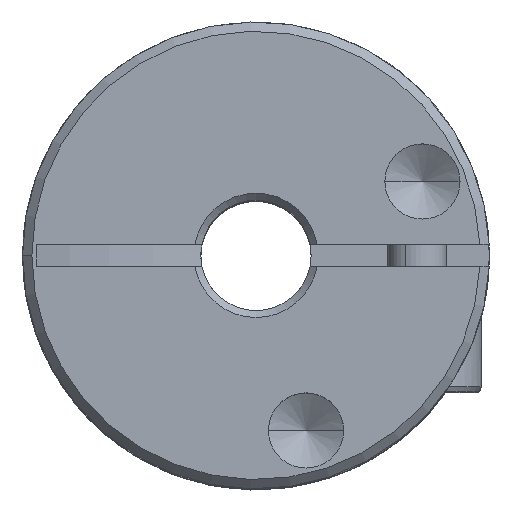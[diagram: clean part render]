
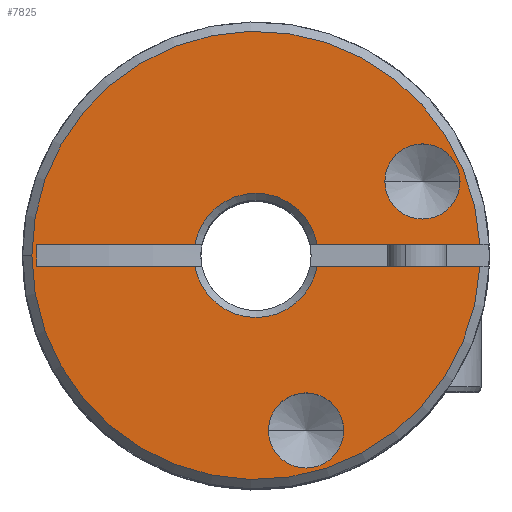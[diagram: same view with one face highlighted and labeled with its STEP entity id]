
A CAD part, top view. The second image highlights one B-rep face of the part: STEP entity #7825.
In plain terms, the highlighted planar face has unit normal (0, 0, 1).
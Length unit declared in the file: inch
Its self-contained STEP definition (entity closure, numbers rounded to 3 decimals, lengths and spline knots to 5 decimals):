
#3417=CARTESIAN_POINT('',(0.47943,0.0234,0.45));
#3427=CARTESIAN_POINT('',(0.,0.,0.45));
#3428=DIRECTION('',(0.,0.,1.));
#3429=DIRECTION('',(-1.,0.,0.));
#3430=AXIS2_PLACEMENT_3D('',#3427,#3428,#3429);
#3435=CARTESIAN_POINT('',(0.,0.,0.45));
#3436=DIRECTION('',(0.,0.,1.));
#3437=DIRECTION('',(0.999,0.049,0.));
#3438=AXIS2_PLACEMENT_3D('',#3435,#3436,#3437);
#3443=DIRECTION('',(1.,0.,0.));
#3444=VECTOR('',#3443,0.3484);
#3445=CARTESIAN_POINT('',(0.13103,0.0234,0.45));
#3446=LINE('',#3445,#3444);
#3450=DIRECTION('',(1.,0.,0.));
#3451=VECTOR('',#3450,0.3484);
#3452=CARTESIAN_POINT('',(0.13103,-0.0234,0.45));
#3453=LINE('',#3452,#3451);
#3457=CARTESIAN_POINT('',(0.10717,-0.37499,0.45));
#3458=DIRECTION('',(0.,0.,-1.));
#3459=DIRECTION('',(1.,0.,0.));
#3460=AXIS2_PLACEMENT_3D('',#3457,#3458,#3459);
#3465=CARTESIAN_POINT('',(0.10717,-0.37499,0.45));
#3466=DIRECTION('',(0.,0.,-1.));
#3467=DIRECTION('',(-1.,0.,0.));
#3468=AXIS2_PLACEMENT_3D('',#3465,#3466,#3467);
#3473=CARTESIAN_POINT('',(0.35642,0.15832,0.45));
#3474=DIRECTION('',(0.,0.,-1.));
#3475=DIRECTION('',(1.,0.,0.));
#3476=AXIS2_PLACEMENT_3D('',#3473,#3474,#3475);
#3481=CARTESIAN_POINT('',(0.35642,0.15832,0.45));
#3482=DIRECTION('',(0.,0.,-1.));
#3483=DIRECTION('',(-1.,0.,0.));
#3484=AXIS2_PLACEMENT_3D('',#3481,#3482,#3483);
#3503=CARTESIAN_POINT('',(0.,0.,0.45));
#3504=DIRECTION('',(0.,0.,-1.));
#3505=DIRECTION('',(-0.984,0.176,0.));
#3506=AXIS2_PLACEMENT_3D('',#3503,#3504,#3505);
#3546=DIRECTION('',(1.,0.,0.));
#3547=VECTOR('',#3546,0.33897);
#3548=CARTESIAN_POINT('',(-0.47,0.0234,0.45));
#3549=LINE('',#3548,#3547);
#3553=DIRECTION('',(0.,-1.,0.));
#3554=VECTOR('',#3553,0.0468);
#3555=CARTESIAN_POINT('',(-0.47,0.0234,0.45));
#3556=LINE('',#3555,#3554);
#3635=CARTESIAN_POINT('',(0.,0.,0.45));
#3636=DIRECTION('',(0.,0.,-1.));
#3637=DIRECTION('',(0.984,-0.176,0.));
#3638=AXIS2_PLACEMENT_3D('',#3635,#3636,#3637);
#3651=DIRECTION('',(-1.,0.,0.));
#3652=VECTOR('',#3651,0.33897);
#3653=CARTESIAN_POINT('',(-0.13103,-0.0234,0.45));
#3654=LINE('',#3653,#3652);
#4752=CARTESIAN_POINT('',(0.13103,-0.0234,0.45));
#4753=CARTESIAN_POINT('',(0.47943,-0.0234,0.45));
#4754=VERTEX_POINT('',#4752);
#4755=VERTEX_POINT('',#4753);
#4760=CARTESIAN_POINT('',(-0.48,0.,0.45));
#4761=VERTEX_POINT('',#4760);
#4762=VERTEX_POINT('',#3417);
#4763=CARTESIAN_POINT('',(0.13103,0.0234,0.45));
#4764=VERTEX_POINT('',#4763);
#4765=CARTESIAN_POINT('',(-0.13103,0.0234,0.45));
#4766=VERTEX_POINT('',#4765);
#4767=CARTESIAN_POINT('',(-0.47,0.0234,0.45));
#4768=VERTEX_POINT('',#4767);
#4769=CARTESIAN_POINT('',(-0.13103,-0.0234,0.45));
#4770=CARTESIAN_POINT('',(-0.47,-0.0234,0.45));
#4771=VERTEX_POINT('',#4769);
#4772=VERTEX_POINT('',#4770);
#4773=CARTESIAN_POINT('',(0.18767,-0.37499,0.45));
#4774=CARTESIAN_POINT('',(0.02667,-0.37499,0.45));
#4775=VERTEX_POINT('',#4773);
#4776=VERTEX_POINT('',#4774);
#4777=CARTESIAN_POINT('',(0.43692,0.15832,0.45));
#4778=CARTESIAN_POINT('',(0.27592,0.15832,0.45));
#4779=VERTEX_POINT('',#4777);
#4780=VERTEX_POINT('',#4778);
#7791=CARTESIAN_POINT('',(0.,0.,0.45));
#7792=DIRECTION('',(0.,0.,1.));
#7793=DIRECTION('',(1.,0.,0.));
#7794=AXIS2_PLACEMENT_3D('',#7791,#7792,#7793);
#7795=PLANE('',#7794);
#7796=ORIENTED_EDGE('',*,*,#7770,.F.);
#7797=ORIENTED_EDGE('',*,*,#7782,.F.);
#7799=ORIENTED_EDGE('',*,*,#7798,.F.);
#7801=ORIENTED_EDGE('',*,*,#7800,.F.);
#7803=ORIENTED_EDGE('',*,*,#7802,.F.);
#7805=ORIENTED_EDGE('',*,*,#7804,.T.);
#7807=ORIENTED_EDGE('',*,*,#7806,.F.);
#7809=ORIENTED_EDGE('',*,*,#7808,.F.);
#7810=ORIENTED_EDGE('',*,*,#7748,.T.);
#7811=EDGE_LOOP('',(#7796,#7797,#7799,#7801,#7803,#7805,#7807,#7809,#7810));
#7812=FACE_OUTER_BOUND('',#7811,.F.);
#7814=ORIENTED_EDGE('',*,*,#7813,.F.);
#7816=ORIENTED_EDGE('',*,*,#7815,.F.);
#7817=EDGE_LOOP('',(#7814,#7816));
#7818=FACE_BOUND('',#7817,.F.);
#7820=ORIENTED_EDGE('',*,*,#7819,.F.);
#7822=ORIENTED_EDGE('',*,*,#7821,.F.);
#7823=EDGE_LOOP('',(#7820,#7822));
#7824=FACE_BOUND('',#7823,.F.);
#3431=CIRCLE('',#3430,0.48);
#3439=CIRCLE('',#3438,0.48);
#3461=CIRCLE('',#3460,0.0805);
#3469=CIRCLE('',#3468,0.0805);
#3477=CIRCLE('',#3476,0.0805);
#3485=CIRCLE('',#3484,0.0805);
#3507=CIRCLE('',#3506,0.1331);
#3639=CIRCLE('',#3638,0.1331);
#7748=EDGE_CURVE('',#4754,#4755,#3453,.T.);
#7770=EDGE_CURVE('',#4761,#4755,#3431,.T.);
#7782=EDGE_CURVE('',#4762,#4761,#3439,.T.);
#7798=EDGE_CURVE('',#4764,#4762,#3446,.T.);
#7800=EDGE_CURVE('',#4766,#4764,#3507,.T.);
#7802=EDGE_CURVE('',#4768,#4766,#3549,.T.);
#7804=EDGE_CURVE('',#4768,#4772,#3556,.T.);
#7806=EDGE_CURVE('',#4771,#4772,#3654,.T.);
#7808=EDGE_CURVE('',#4754,#4771,#3639,.T.);
#7813=EDGE_CURVE('',#4775,#4776,#3461,.T.);
#7815=EDGE_CURVE('',#4776,#4775,#3469,.T.);
#7819=EDGE_CURVE('',#4779,#4780,#3477,.T.);
#7821=EDGE_CURVE('',#4780,#4779,#3485,.T.);
#7825=ADVANCED_FACE('',(#7812,#7818,#7824),#7795,.T.);
